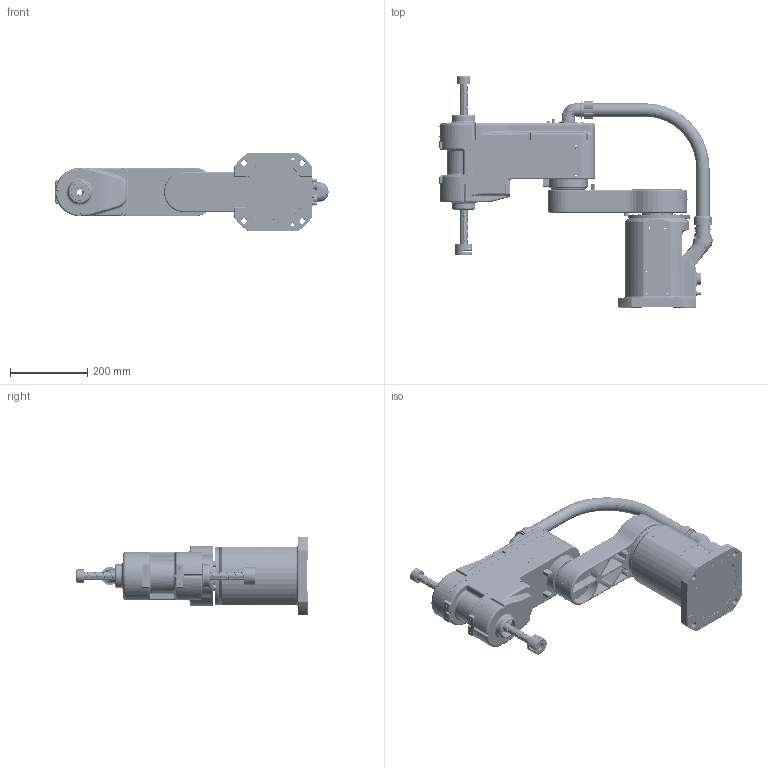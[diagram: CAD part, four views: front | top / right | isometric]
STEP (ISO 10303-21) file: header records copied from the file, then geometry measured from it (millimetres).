
FILE_DESCRIPTION (( 'STEP AP214' ), '1' );
FILE_NAME ('R4-0605 3D耀倰.STEP', '2023-06-08T09:09:21', ( 'iCura' ), ( 'ICOS' ), 'SwSTEP 2.0', 'SolidWorks 2018', '' );
FILE_SCHEMA (( 'AUTOMOTIVE_DESIGN' ));
Length unit declared in the file: millimetre
Products named in the file (7): 软管接头; R4-0606-4-00 ; R4-0606-3-00; R4-0605-2-00; R4-0605 3D耀倰; 疏恇奪 R4-0605; R4-0606-1-00
Assembly tree (6 placements, depth 2):
  R4-0605 3D耀倰
    R4-0606-1-00
    R4-0605-2-00
    R4-0606-3-00
    R4-0606-4-00 
    软管接头
    疏恇奪 R4-0605
Bounding box: 705.51 x 597.14 x 200 mm (x, y, z)
Volume: 193185.8 mm3; surface area: 1178553.9 mm2
Topology: 2 solids, 172 shells, 2628 faces, 8659 edges, 6112 vertices
Faces by surface type: cylinder 1167, plane 900, bspline 263, cone 147, torus 126, sphere 25
Full cylindrical faces by diameter (mm): 1 x18, 2.5 x31, 3.1 x2, 3.2 x8, 3.3 x16, 3.4 x24, 3.5 x48, 4 x6, 4.134 x1, 4.2 x17, 4.5 x16, 5 x2, 5.5 x33, 5.891 x2, 6 x14, 6.5 x4, 7 x17, 7.5 x2, 8 x24, 10 x5, 13 x2, 14 x7, 14.9 x1, 18 x1, 20 x2, 26 x1, 29 x2, 30 x4, 32 x3, 33 x1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
Entity records: 146604 total; most frequent: CARTESIAN_POINT 47494, DIRECTION 14157, ORIENTED_EDGE 13082, EDGE_CURVE 7897, VERTEX_POINT 5916, AXIS2_PLACEMENT_3D 5339, EDGE_LOOP 3746, LINE 3479
